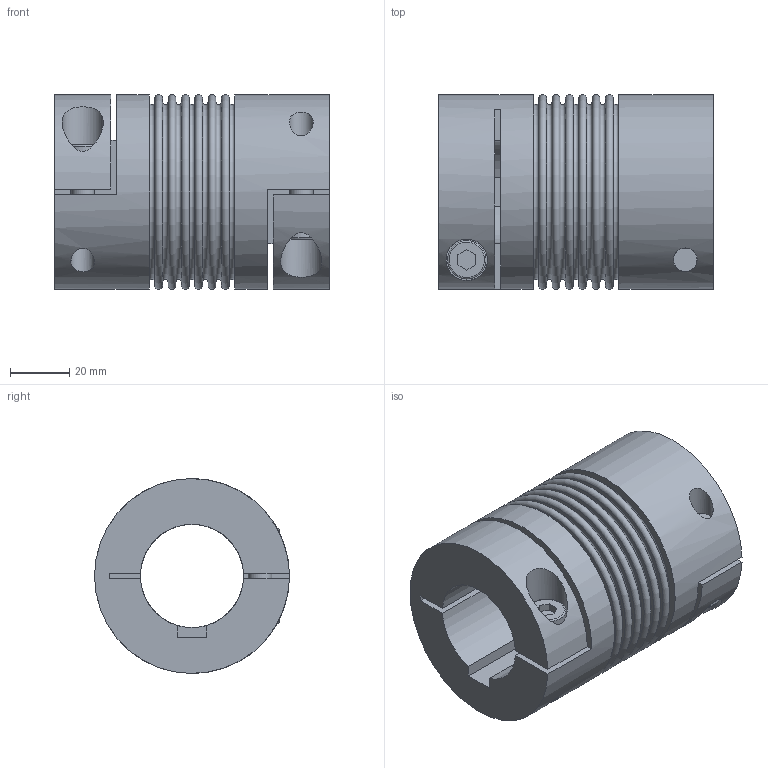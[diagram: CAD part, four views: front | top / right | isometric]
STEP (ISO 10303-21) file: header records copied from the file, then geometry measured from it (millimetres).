
FILE_DESCRIPTION(/* description */ ('STEP AP214'),/* implementation_level */ '2;1');
FILE_NAME(/* name */ 'C:\Diequa Files\DieQua Coupling\Website Step Files\BC.60.93.#.#.stp',/* time_stamp */ '2018-10-25T16:20:52-05:00',/* author */ ('DiequaCAD'),/* organization */ (''),/* preprocessor_version */ 'ST-DEVELOPER v17.2',/* originating_system */ 'Autodesk Inventor 2019',/* authorisation */ ' ');
FILE_SCHEMA (('AUTOMOTIVE_DESIGN { 1 0 10303 214 3 1 1 }'));
Length unit declared in the file: millimetre
Products named in the file (1): BC2.60.93.#.#
Bounding box: 93 x 66 x 66 mm (x, y, z)
Volume: 160549.7 mm3; surface area: 54671 mm2
Topology: 1 solids, 1 shells, 88 faces, 218 edges, 154 vertices
Faces by surface type: plane 58, torus 15, cylinder 15
Full cylindrical faces by diameter (mm): 8 x4, 13 x2, 14 x2, 56 x1, 66 x2
Entity records: 2895 total; most frequent: CARTESIAN_POINT 611, DIRECTION 495, ORIENTED_EDGE 436, EDGE_CURVE 218, AXIS2_PLACEMENT_3D 194, VERTEX_POINT 154, EDGE_LOOP 116, LINE 107
